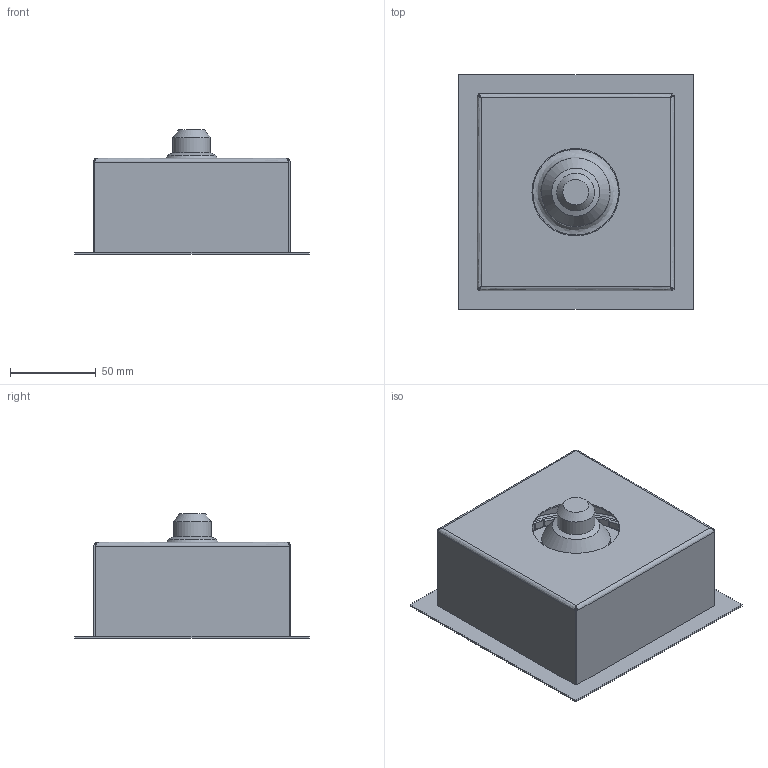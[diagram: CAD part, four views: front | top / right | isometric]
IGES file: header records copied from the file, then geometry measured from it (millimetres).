
Start section: SolidWorks IGES file using analytic representation for surfaces
Global section: file name: X:\PRODUKT\Modele 3D_WWW\_KOLEKCJE WWW\MOD\MOD-I-9417-9413\MOD-I-9417-9413.IGS; native system: SolidWorks 2021; preprocessor: SolidWorks 2021; author: gabriela.tworek; date: 220629.105548; units: millimetre
Bounding box: 137 x 137 x 72.55 mm (x, y, z)
Surface area: 131532.3 mm2 (no closed solid volume)
Topology: 0 solids, 0 shells, 433 faces, 3087 edges, 3054 vertices
Faces by surface type: revolution 257, bspline 176
